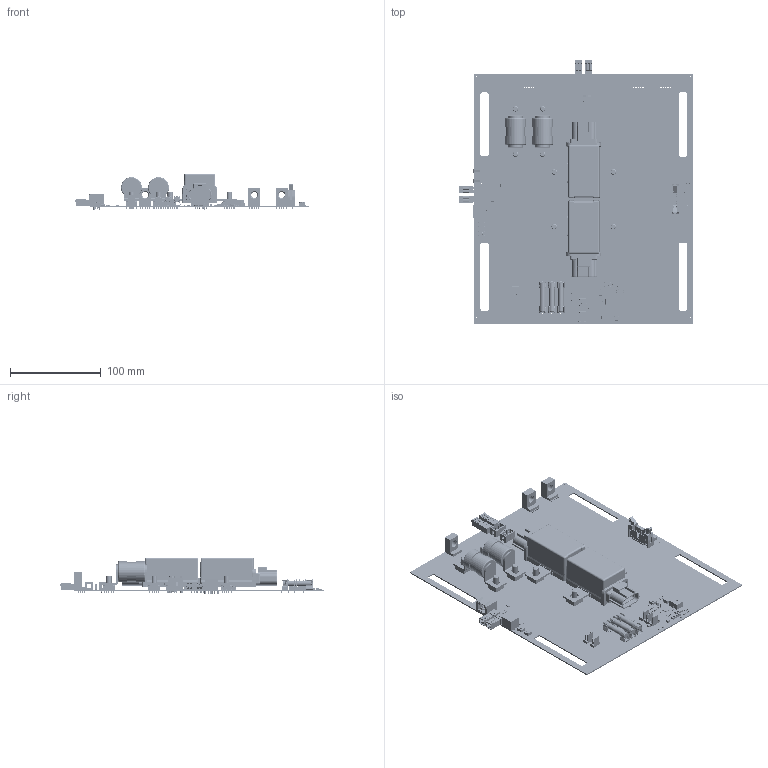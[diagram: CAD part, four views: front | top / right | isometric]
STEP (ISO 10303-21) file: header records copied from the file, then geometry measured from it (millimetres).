
FILE_DESCRIPTION(('KiCad electronic assembly'),'2;1');
FILE_NAME('PowerPro.step','2025-04-04T18:39:42',('Pcbnew'),('Kicad'), 'Open CASCADE STEP processor 7.8','KiCad to STEP converter','Unknown' );
FILE_SCHEMA(('AUTOMOTIVE_DESIGN { 1 0 10303 214 1 1 1 1 }'));
Length unit declared in the file: millimetre
Products named in the file (52): PowerPro 1; SO-4_4.4x4.3mm_P2.54mm; C_0603_1608Metric; IDC-Header_2x03_P2.54mm_Vertical; R_0603_1608Metric; 430152043826 (rev1); LED_0603_1608Metric; HSOP-8-1EP_3.9x4.9mm_P1.27mm_EP2.41x3.1mm; SOT-23; STP_74622108 (rev1); PhoenixContact_MC_1,5_2-G-3.5_1x02_P3.50mm_Horizontal; C_1210_3225Metric; R_1206_3216Metric; 7461098; 61201022021; 10; 6120xx22x21_LEVIER_COURT; 6120xx21621_PIN; ab1_ecs-KÃ¶rper; Download_STEP_691304100002 (rev1); 691304100002; 691304100002_Bas; 6913041000xx_Levier; 6913041000xx_Pin; 6913041000xx_Lamelle; Molex_KK-254_AE-6410-04A_1x04_P2.54mm_Vertical; Download_STP_WE-LQFS-4818 (rev1); 4818_74406042_Housing; 4818_74406042; 4818_74406042_Pads; Glue L; Glue R; User Library-Clips LF-102071 with fuse 6_3x32; LF 102071; 6,3x32; ws-sltv_450301014042 (rev1); cover; slide; 7-1414778-3; MD-60SGK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
Assembly tree (167 placements, depth 3):
  PowerPro 1
    SO-4_4.4x4.3mm_P2.54mm  x2
    C_0603_1608Metric  x14
    IDC-Header_2x03_P2.54mm_Vertical  x2
    R_0603_1608Metric  x32
    430152043826 (rev1)  x4
    LED_0603_1608Metric  x4
    HSOP-8-1EP_3.9x4.9mm_P1.27mm_EP2.41x3.1mm
    SOT-23  x10
    STP_74622108 (rev1)  x3
    PhoenixContact_MC_1,5_2-G-3.5_1x02_P3.50mm_Horizontal  x4
    C_1210_3225Metric  x8
    R_1206_3216Metric  x2
    7461098  x8
    61201022021
      10
      6120xx22x21_LEVIER_COURT  x2
      6120xx21621_PIN  x10
    ab1_ecs-KÃ¶rper  x2
    Download_STEP_691304100002 (rev1)  x4
      691304100002
      691304100002_Bas
      6913041000xx_Levier
      6913041000xx_Pin
      6913041000xx_Lamelle
    Molex_KK-254_AE-6410-04A_1x04_P2.54mm_Vertical  x5
    Download_STP_WE-LQFS-4818 (rev1)
      4818_74406042_Housing
      4818_74406042
      4818_74406042
      4818_74406042_Pads  x2
      Glue L
      Glue R
    User Library-Clips LF-102071 with fuse 6_3x32  x3
      LF 102071
      6,3x32
    ws-sltv_450301014042 (rev1)
      cover
      slide
    7-1414778-3  x2
    MD-60SGK
      Body
      Leads  x9
    D_SOD-128
    RJ45_Amphenol_RJHSE538X
    PinHeader_2x05_P1.27mm_Vertical_SMD
    D_MiniMELF  x2
    TSSOP-20_4.4x6.5mm_P0.65mm
    CMI-1265-88-SMT-TR
    Nidec_Copal_SH-7010B
    SW_SPST_PTS645
    powerPro_PCB
Bounding box: 257.95 x 291.2 x 40.5 mm (x, y, z)
Volume: 300436.8 mm3; surface area: 220095.9 mm2
Topology: 260 solids, 260 shells, 15453 faces, 38602 edges, 23946 vertices
Faces by surface type: plane 9954, cylinder 3496, bspline 1753, torus 98, cone 90, sphere 28, extrusion 26, revolution 8
Full cylindrical faces by diameter (mm): 0.1 x14, 0.2 x1, 0.3 x6, 0.4 x2, 0.5 x13, 0.6 x7, 0.7 x54, 0.8 x3, 0.89 x12, 1 x39, 1.1 x6, 1.19 x20, 1.2 x33, 1.3 x3, 1.35 x4, 1.4 x6, 1.45 x275, 1.57 x2, 1.9 x1, 1.98 x12, 2.109 x27, 2.5 x16, 3.25 x4, 3.3 x1, 3.5 x5, 6 x16, 6.647 x3, 21 x2, 23 x4
Entity records: 181236 total; most frequent: CARTESIAN_POINT 35932, ORIENTED_EDGE 25322, DIRECTION 23422, EDGE_CURVE 12659, VECTOR 9062, LINE 9036, VERTEX_POINT 8102, AXIS2_PLACEMENT_3D 7177
